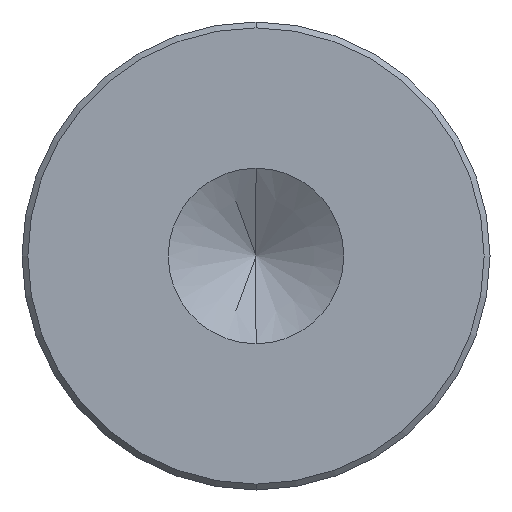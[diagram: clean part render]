
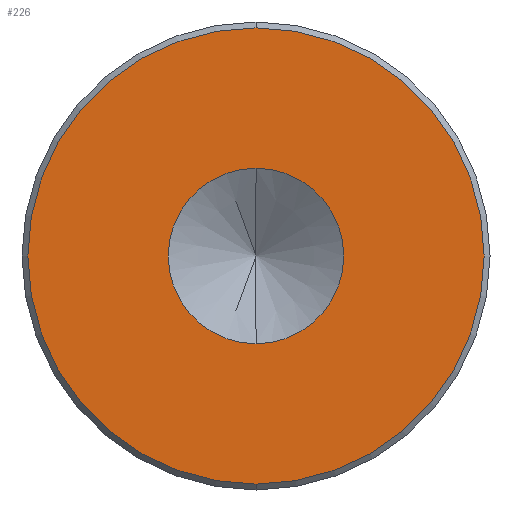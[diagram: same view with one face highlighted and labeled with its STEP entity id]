
A CAD part, front view. The second image highlights one B-rep face of the part: STEP entity #226.
In plain terms, the highlighted planar face has unit normal (0, -1, 0).
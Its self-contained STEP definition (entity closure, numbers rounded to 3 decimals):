
#22 = VERTEX_POINT ( 'NONE', #377 ) ;
#42 = CARTESIAN_POINT ( 'NONE',  ( 0., 0., 0. ) ) ;
#51 = AXIS2_PLACEMENT_3D ( 'NONE', #466, #158, #590 ) ;
#58 = ORIENTED_EDGE ( 'NONE', *, *, #494, .T. ) ;
#84 = CARTESIAN_POINT ( 'NONE',  ( 0., 0., 3. ) ) ;
#131 = AXIS2_PLACEMENT_3D ( 'NONE', #42, #472, #294 ) ;
#136 = EDGE_LOOP ( 'NONE', ( #579, #529 ) ) ;
#157 = CARTESIAN_POINT ( 'NONE',  ( 0., 0., 0. ) ) ;
#158 = DIRECTION ( 'NONE',  ( 0., -1., 0. ) ) ;
#201 = CIRCLE ( 'NONE', #131, 7.8 ) ;
#226 = ADVANCED_FACE ( 'NONE', ( #702, #663 ), #517, .F. ) ;
#241 = CARTESIAN_POINT ( 'NONE',  ( 0., 0., -7.8 ) ) ;
#294 = DIRECTION ( 'NONE',  ( 0., 0., 1. ) ) ;
#299 = CIRCLE ( 'NONE', #51, 3. ) ;
#315 = AXIS2_PLACEMENT_3D ( 'NONE', #157, #395, #765 ) ;
#327 = EDGE_CURVE ( 'NONE', #376, #535, #528, .T. ) ;
#328 = CARTESIAN_POINT ( 'NONE',  ( 0., 0., 0. ) ) ;
#330 = CARTESIAN_POINT ( 'NONE',  ( 0., 0., 7.8 ) ) ;
#331 = DIRECTION ( 'NONE',  ( 0., -1., 0. ) ) ;
#373 = VERTEX_POINT ( 'NONE', #84 ) ;
#376 = VERTEX_POINT ( 'NONE', #330 ) ;
#377 = CARTESIAN_POINT ( 'NONE',  ( 0., 0., -3. ) ) ;
#378 = AXIS2_PLACEMENT_3D ( 'NONE', #328, #523, #580 ) ;
#395 = DIRECTION ( 'NONE',  ( 0., 1., 0. ) ) ;
#412 = CARTESIAN_POINT ( 'NONE',  ( 0., 0., 0. ) ) ;
#413 = EDGE_CURVE ( 'NONE', #22, #373, #299, .T. ) ;
#438 = CIRCLE ( 'NONE', #649, 3. ) ;
#452 = DIRECTION ( 'NONE',  ( 0., 0., -1. ) ) ;
#465 = EDGE_LOOP ( 'NONE', ( #704, #58 ) ) ;
#466 = CARTESIAN_POINT ( 'NONE',  ( 0., 0., 0. ) ) ;
#472 = DIRECTION ( 'NONE',  ( 0., -1., 0. ) ) ;
#494 = EDGE_CURVE ( 'NONE', #535, #376, #201, .T. ) ;
#517 = PLANE ( 'NONE',  #315 ) ;
#523 = DIRECTION ( 'NONE',  ( 0., -1., 0. ) ) ;
#528 = CIRCLE ( 'NONE', #378, 7.8 ) ;
#529 = ORIENTED_EDGE ( 'NONE', *, *, #678, .F. ) ;
#535 = VERTEX_POINT ( 'NONE', #241 ) ;
#579 = ORIENTED_EDGE ( 'NONE', *, *, #413, .F. ) ;
#580 = DIRECTION ( 'NONE',  ( 0., 0., 1. ) ) ;
#590 = DIRECTION ( 'NONE',  ( 0., 0., -1. ) ) ;
#649 = AXIS2_PLACEMENT_3D ( 'NONE', #412, #331, #452 ) ;
#663 = FACE_BOUND ( 'NONE', #136, .T. ) ;
#678 = EDGE_CURVE ( 'NONE', #373, #22, #438, .T. ) ;
#702 = FACE_OUTER_BOUND ( 'NONE', #465, .T. ) ;
#704 = ORIENTED_EDGE ( 'NONE', *, *, #327, .T. ) ;
#765 = DIRECTION ( 'NONE',  ( 0., 0., 1. ) ) ;
